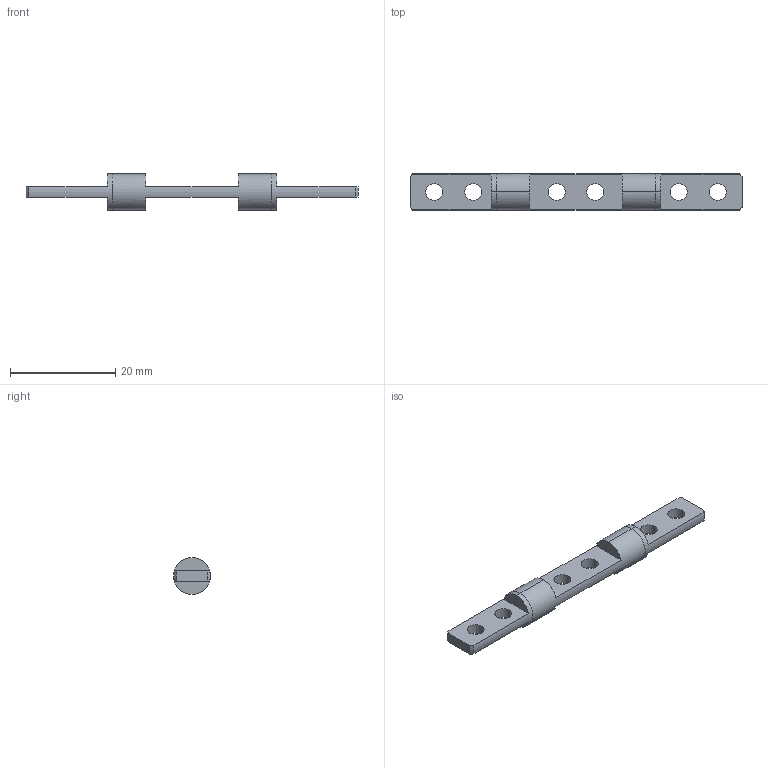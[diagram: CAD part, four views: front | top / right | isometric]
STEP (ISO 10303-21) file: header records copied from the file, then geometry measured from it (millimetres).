
FILE_DESCRIPTION (( 'STEP AP203' ), '1' );
FILE_NAME ('XG11-129.STEP', '2025-08-01T08:15:04', ( '微软用户' ), ( '微软中国' ), 'SwSTEP 2.0', 'SolidWorks 2024', '' );
FILE_SCHEMA (( 'CONFIG_CONTROL_DESIGN' ));
Length unit declared in the file: millimetre
Products named in the file (1): XG11-129
Bounding box: 63 x 7 x 7 mm (x, y, z)
Volume: 1131.8 mm3; surface area: 1467.3 mm2
Topology: 3 solids, 3 shells, 42 faces, 108 edges, 72 vertices
Faces by surface type: plane 20, cylinder 18, cone 4
Entity records: 1413 total; most frequent: CARTESIAN_POINT 247, DIRECTION 242, ORIENTED_EDGE 216, EDGE_CURVE 108, AXIS2_PLACEMENT_3D 99, VERTEX_POINT 72, CIRCLE 56, EDGE_LOOP 54
